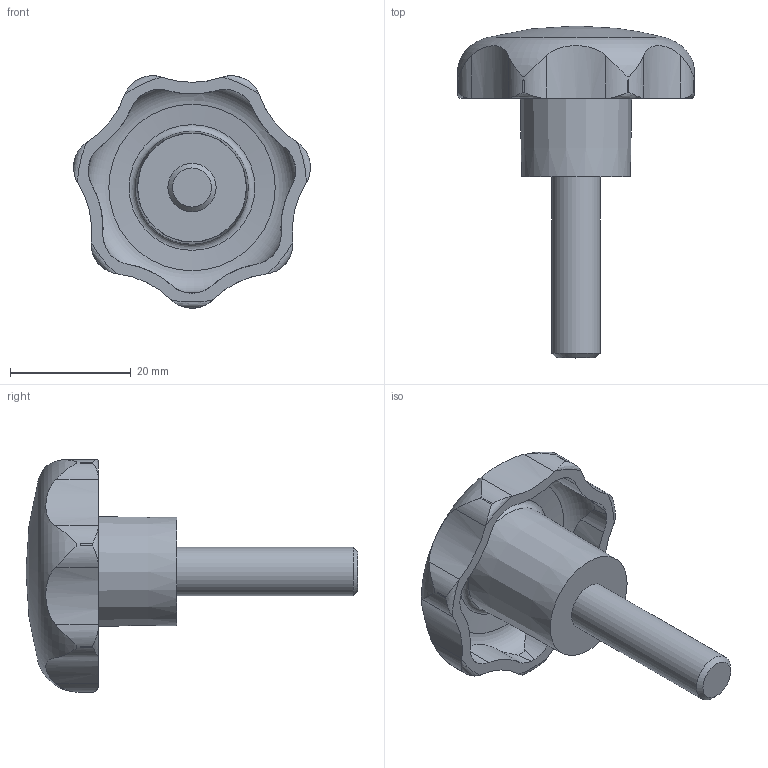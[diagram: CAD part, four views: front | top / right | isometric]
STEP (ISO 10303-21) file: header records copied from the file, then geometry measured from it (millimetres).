
FILE_DESCRIPTION( ( 'STEP AP203' ), '1' );
FILE_NAME( 'C:/Temp/Ganter_Step_05_03_2020/data/2_2/gn_6336_4/gn_6336_4_st/Star knob GN 6336.4-ST-40-M8-30.stp', '2020-03-05T12:07:29', ( 'License CC BY-ND 4.0' ), ( 'CADENAS' ), ' ', 'PARTsolutions', ' ' );
FILE_SCHEMA( ( 'CONFIG_CONTROL_DESIGN' ) );
Length unit declared in the file: millimetre
Products named in the file (1): _Star knob GN 6336.4-ST-40-M8-30
Bounding box: 39.25 x 55 x 38.51 mm (x, y, z)
Volume: 12311 mm3; surface area: 5637.2 mm2
Topology: 1 solids, 1 shells, 74 faces, 208 edges, 137 vertices
Faces by surface type: cylinder 43, torus 17, cone 10, plane 3, sphere 1
Full cylindrical faces by diameter (mm): 8 x1
Entity records: 3288 total; most frequent: CARTESIAN_POINT 1437, ORIENTED_EDGE 394, DIRECTION 362, EDGE_CURVE 197, AXIS2_PLACEMENT_3D 160, VERTEX_POINT 135, CIRCLE 85, EDGE_LOOP 83
